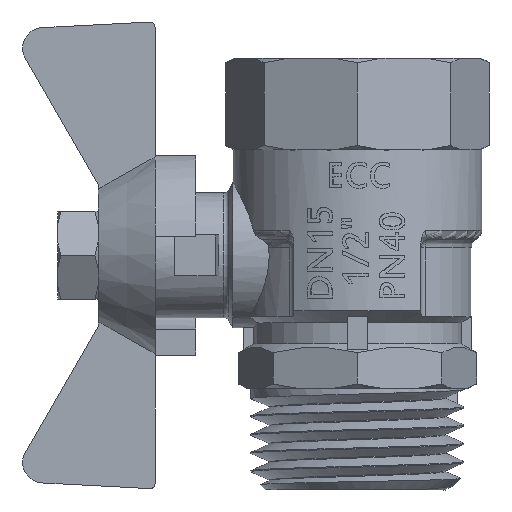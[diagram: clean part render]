
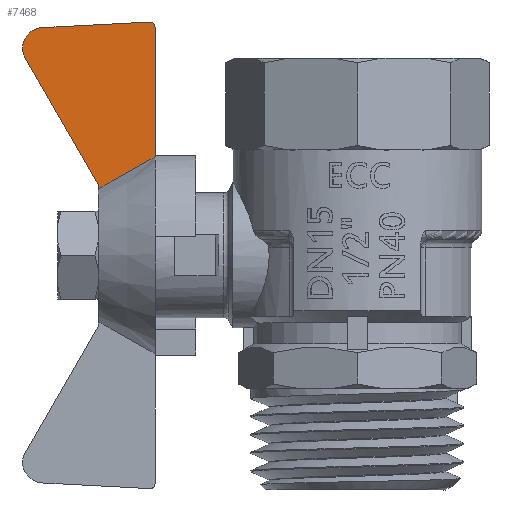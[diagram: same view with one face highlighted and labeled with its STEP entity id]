
A CAD part, left-side view. The second image highlights one B-rep face of the part: STEP entity #7468.
In plain terms, the highlighted planar face has unit normal (-1, 0, 0).
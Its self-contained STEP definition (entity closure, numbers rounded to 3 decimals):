
#125=(
BOUNDED_CURVE()
B_SPLINE_CURVE(2,(#20059,#20060,#20061),.UNSPECIFIED.,.F.,.F.)
B_SPLINE_CURVE_WITH_KNOTS((3,3),(0.,0.642),.UNSPECIFIED.)
CURVE()
GEOMETRIC_REPRESENTATION_ITEM()
RATIONAL_B_SPLINE_CURVE((1.,1.018,1.))
REPRESENTATION_ITEM('')
);
#414=PLANE('',#8047);
#664=CIRCLE('',#8048,0.5);
#665=CIRCLE('',#8049,2.);
#1128=FACE_OUTER_BOUND('',#1589,.T.);
#1589=EDGE_LOOP('',(#6801,#6802,#6803,#6804,#6805,#6806,#6807));
#2127=LINE('',#20040,#2641);
#2131=LINE('',#20065,#2645);
#2132=LINE('',#20069,#2646);
#2133=LINE('',#20070,#2647);
#2641=VECTOR('',#9637,10.);
#2645=VECTOR('',#9653,10.);
#2646=VECTOR('',#9656,10.);
#2647=VECTOR('',#9657,10.);
#3583=VERTEX_POINT('',#20003);
#3594=VERTEX_POINT('',#20038);
#3601=VERTEX_POINT('',#20058);
#3602=VERTEX_POINT('',#20062);
#3603=VERTEX_POINT('',#20064);
#3604=VERTEX_POINT('',#20066);
#3605=VERTEX_POINT('',#20068);
#4692=EDGE_CURVE('',#3583,#3594,#2127,.T.);
#4700=EDGE_CURVE('',#3583,#3601,#125,.T.);
#4701=EDGE_CURVE('',#3594,#3602,#664,.T.);
#4702=EDGE_CURVE('',#3602,#3603,#2131,.T.);
#4703=EDGE_CURVE('',#3603,#3604,#665,.T.);
#4704=EDGE_CURVE('',#3604,#3605,#2132,.T.);
#4705=EDGE_CURVE('',#3605,#3601,#2133,.T.);
#6801=ORIENTED_EDGE('',*,*,#4700,.F.);
#6802=ORIENTED_EDGE('',*,*,#4692,.T.);
#6803=ORIENTED_EDGE('',*,*,#4701,.T.);
#6804=ORIENTED_EDGE('',*,*,#4702,.T.);
#6805=ORIENTED_EDGE('',*,*,#4703,.T.);
#6806=ORIENTED_EDGE('',*,*,#4704,.T.);
#6807=ORIENTED_EDGE('',*,*,#4705,.T.);
#7468=ADVANCED_FACE('',(#1128),#414,.F.);
#8047=AXIS2_PLACEMENT_3D('',#20057,#9649,#9650);
#8048=AXIS2_PLACEMENT_3D('',#20063,#9651,#9652);
#8049=AXIS2_PLACEMENT_3D('',#20067,#9654,#9655);
#9637=DIRECTION('',(0.,0.,1.));
#9649=DIRECTION('center_axis',(1.,0.,0.));
#9650=DIRECTION('ref_axis',(0.,0.,-1.));
#9651=DIRECTION('center_axis',(-1.,0.,0.));
#9652=DIRECTION('ref_axis',(0.,0.052,0.999));
#9653=DIRECTION('',(0.,0.999,-0.052));
#9654=DIRECTION('center_axis',(-1.,0.,0.));
#9655=DIRECTION('ref_axis',(0.,0.866,-0.5));
#9656=DIRECTION('',(0.,-0.5,-0.866));
#9657=DIRECTION('',(0.,0.,-1.));
#20003=CARTESIAN_POINT('',(-2.5,19.93,9.682));
#20038=CARTESIAN_POINT('',(-2.5,19.93,22.473));
#20040=CARTESIAN_POINT('',(-2.5,19.93,22.473));
#20057=CARTESIAN_POINT('Origin',(-2.5,24.599,0.));
#20058=CARTESIAN_POINT('',(-2.5,25.53,6.538));
#20059=CARTESIAN_POINT('Ctrl Pts',(-2.5,19.93,9.682));
#20060=CARTESIAN_POINT('Ctrl Pts',(-2.5,23.273,7.833));
#20061=CARTESIAN_POINT('Ctrl Pts',(-2.5,25.53,6.538));
#20062=CARTESIAN_POINT('',(-2.5,20.456,22.972));
#20063=CARTESIAN_POINT('Origin',(-2.5,20.43,22.473));
#20064=CARTESIAN_POINT('',(-2.5,31.072,22.416));
#20065=CARTESIAN_POINT('',(-2.5,31.072,22.416));
#20066=CARTESIAN_POINT('',(-2.5,32.7,19.419));
#20067=CARTESIAN_POINT('Origin',(-2.5,30.968,20.419));
#20068=CARTESIAN_POINT('',(-2.5,25.53,7.));
#20069=CARTESIAN_POINT('',(-2.5,25.53,7.));
#20070=CARTESIAN_POINT('',(-2.5,25.53,-7.));
